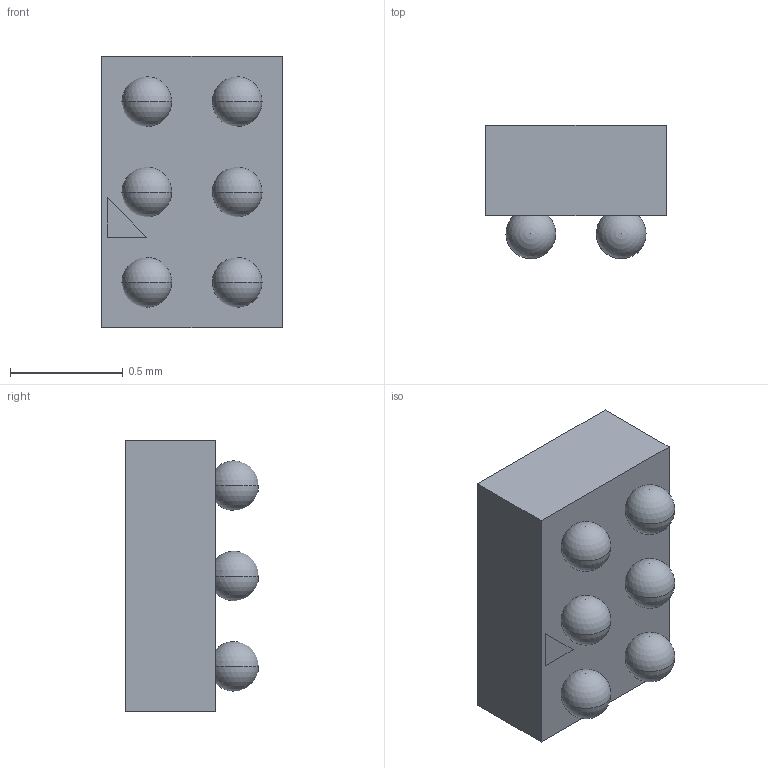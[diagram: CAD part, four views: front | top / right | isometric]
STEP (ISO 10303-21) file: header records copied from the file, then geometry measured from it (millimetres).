
FILE_DESCRIPTION (( 'STEP AP214' ), '1' );
FILE_NAME ('BMA530.STEP', '2024-10-26T00:22:08', ( '' ), ( '' ), 'SwSTEP 2.0', 'SolidWorks 2021', '' );
FILE_SCHEMA (( 'AUTOMOTIVE_DESIGN' ));
Length unit declared in the file: millimetre
Products named in the file (1): BMA530
Bounding box: 0.8 x 0.59 x 1.2 mm (x, y, z)
Volume: 0.4 mm3; surface area: 4.6 mm2
Topology: 9 solids, 9 shells, 40 faces, 96 edges, 64 vertices
Faces by surface type: plane 24, sphere 12, cylinder 4
Entity records: 1056 total; most frequent: DIRECTION 180, CARTESIAN_POINT 153, ORIENTED_EDGE 132, AXIS2_PLACEMENT_3D 73, EDGE_CURVE 66, VERTEX_POINT 46, EDGE_LOOP 42, FACE_OUTER_BOUND 40
